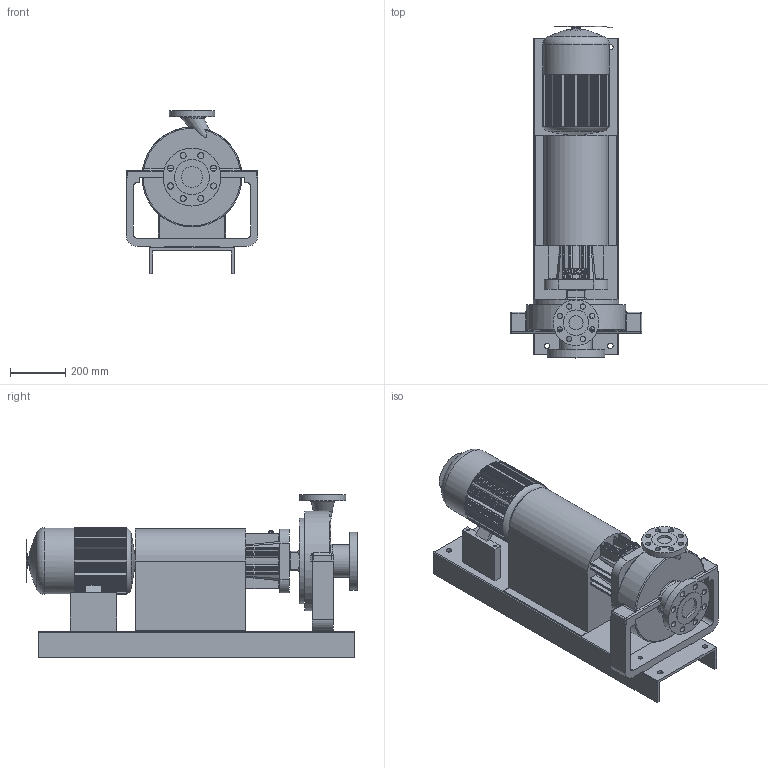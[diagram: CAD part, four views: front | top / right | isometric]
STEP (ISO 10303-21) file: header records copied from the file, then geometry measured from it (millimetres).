
FILE_DESCRIPTION(/* description */ ('Unknown'),/* implementation_level */ '2;1');
FILE_NAME(/* name */ 'CTP 2x3x10 213T',/* time_stamp */ '2016-02-18T13:45:24+01:00',/* author */ ('Unknown'),/* organization */ ('Unknown'),/* preprocessor_version */ 'ST-DEVELOPER v16',/* originating_system */ 'DEX',/* authorisation */ $);
FILE_SCHEMA (('AP242_MANAGED_MODEL_BASED_3D_ENGINEERING_MIM_LF { 1 0 10303 442 1 1 4 }','AUTOMOTIVE_DESIGN {1 0 10303 214 3 1 1}'));
Products named in the file (1): Maatschets3D CTP
Bounding box: 476.25 x 1199.94 x 590.55 mm (x, y, z)
Volume: 64766749.7 mm3; surface area: 3737737.5 mm2
Topology: 1 solids, 1 shells, 1579 faces, 4020 edges, 2403 vertices
Faces by surface type: plane 1098, cylinder 287, bspline 139, sphere 31, torus 22, cone 2
Full cylindrical faces by diameter (mm): 10.414 x4, 16 x2, 19.05 x8, 20 x4, 22.225 x8, 44.925 x1, 50.8 x1, 76.2 x1, 92.075 x1, 117 x1, 127 x1, 165.1 x1, 209.55 x1, 235 x1, 240.03 x1, 280 x1, 309 x1, 361 x1
Entity records: 64263 total; most frequent: CARTESIAN_POINT 16083, ORIENTED_EDGE 7764, DIRECTION 7655, EDGE_CURVE 3882, AXIS2_PLACEMENT_3D 2594, LINE 2467, VECTOR 2467, VERTEX_POINT 2373
